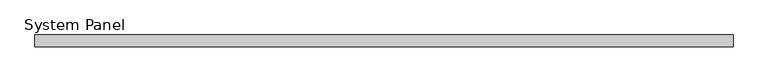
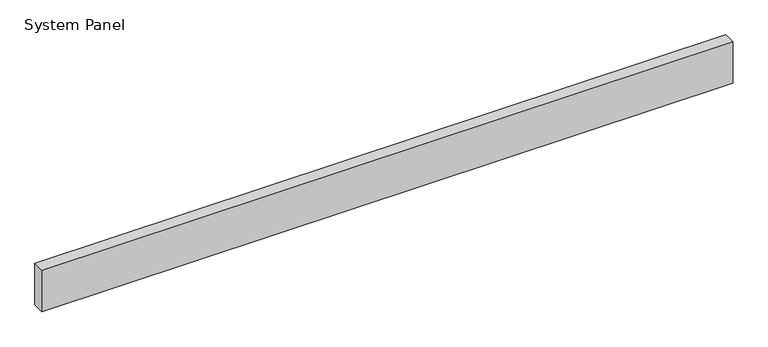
"""IFC4 building model written with IfcOpenShell, lengths in millimetres: plate geometry, System Panel : MetecnoPanel 100mm Horizontal - Plain Astro - PIR."""

from ifc_helpers import new_model, si_unit, origin, origin_with_axes, place, context, project, spatial, polyline, outline, extrude, source, transform, mapped, element, save


def system_panel_d0f74044(model_context):
    return source(origin(), model_context, "Body", "SweptSolid", [
        extrude(outline(polyline([(2990.0, -100.0), (-2990.0, -100.0), (-2990.0, 0.0), (2990.0, 0.0), (2990.0, -100.0)])), origin_with_axes(), (0.0, 0.0, 1.0), 379.9704237),
    ])


if __name__ == "__main__":
    model = new_model("IFC4")
    model_context = context("Model", 3, world=origin())
    ifc_project = project(units=[si_unit("LENGTHUNIT", "METRE", prefix="MILLI")], contexts=[model_context])
    site = spatial("IfcSite", under=ifc_project)
    building = spatial("IfcBuilding", under=site)
    placement = place(None, origin())
    system_panel_shape = system_panel_d0f74044(model_context)
    element("IfcPlate", 1, ObjectType="System Panel : MetecnoPanel 100mm Horizontal - Plain Astro - PIR", at=placement, inside=building, context=model_context, shape_type="MappedRepresentation", body=[
        mapped(system_panel_shape, transform((0.0, 0.0, 0.0), x_axis=(1.0, 0.0, 0.0), y_axis=(0.0, 1.0, 0.0), z_axis=(0.0, 0.0, 1.0))),
    ])
    save(model, "model.ifc")
